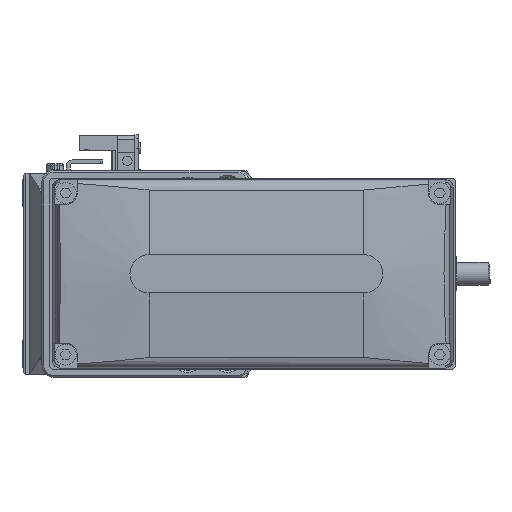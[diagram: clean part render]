
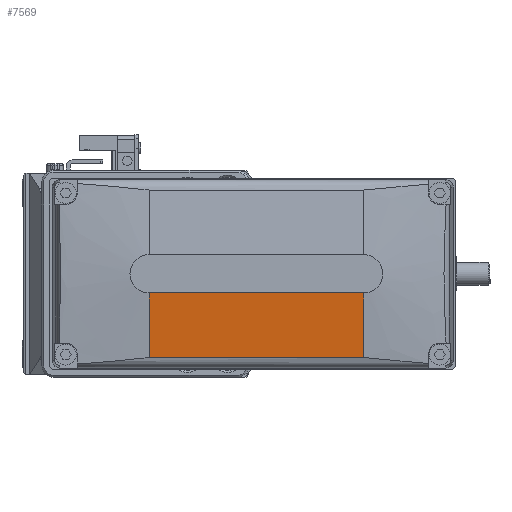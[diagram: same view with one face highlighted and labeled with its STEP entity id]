
A CAD part, left-side view. The second image highlights one B-rep face of the part: STEP entity #7569.
In plain terms, the highlighted planar face has unit normal (-0.996, 0, -0.087).
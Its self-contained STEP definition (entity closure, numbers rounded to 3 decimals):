
#338 = VECTOR ( 'NONE', #29300, 1000. ) ;
#653 = ORIENTED_EDGE ( 'NONE', *, *, #23047, .F. ) ;
#2055 = LINE ( 'NONE', #25812, #32162 ) ;
#3894 = EDGE_CURVE ( 'NONE', #37378, #28473, #23860, .T. ) ;
#5107 = DIRECTION ( 'NONE',  ( 0., 1., 0. ) ) ;
#5335 = VERTEX_POINT ( 'NONE', #30059 ) ;
#5400 = CARTESIAN_POINT ( 'NONE',  ( -48.525, 28., -21.861 ) ) ;
#5723 = DIRECTION ( 'NONE',  ( 0., 1., 0. ) ) ;
#6645 = ORIENTED_EDGE ( 'NONE', *, *, #3894, .T. ) ;
#7569 = ADVANCED_FACE ( 'NONE', ( #11992 ), #8852, .T. ) ;
#8852 = PLANE ( 'NONE',  #9885 ) ;
#9382 = EDGE_CURVE ( 'NONE', #37378, #5335, #29989, .T. ) ;
#9885 = AXIS2_PLACEMENT_3D ( 'NONE', #38114, #23490, #29445 ) ;
#11608 = VECTOR ( 'NONE', #35342, 1000. ) ;
#11992 = FACE_OUTER_BOUND ( 'NONE', #31158, .T. ) ;
#14630 = CARTESIAN_POINT ( 'NONE',  ( 43606.406, 28., -499000. ) ) ;
#16292 = CARTESIAN_POINT ( 'NONE',  ( -50., 28., -5. ) ) ;
#17146 = LINE ( 'NONE', #14630, #11608 ) ;
#17344 = VECTOR ( 'NONE', #5723, 1000. ) ;
#18079 = CARTESIAN_POINT ( 'NONE',  ( -50., -28., -5. ) ) ;
#23047 = EDGE_CURVE ( 'NONE', #5335, #27528, #2055, .T. ) ;
#23490 = DIRECTION ( 'NONE',  ( -0.996, 0., -0.087 ) ) ;
#23576 = CARTESIAN_POINT ( 'NONE',  ( -50., 128., -5. ) ) ;
#23860 = LINE ( 'NONE', #23576, #17344 ) ;
#25812 = CARTESIAN_POINT ( 'NONE',  ( -48.525, 128., -21.861 ) ) ;
#27528 = VERTEX_POINT ( 'NONE', #5400 ) ;
#28473 = VERTEX_POINT ( 'NONE', #16292 ) ;
#28731 = ORIENTED_EDGE ( 'NONE', *, *, #30897, .F. ) ;
#29300 = DIRECTION ( 'NONE',  ( 0.087, 0., -0.996 ) ) ;
#29445 = DIRECTION ( 'NONE',  ( -0.087, 0., 0.996 ) ) ;
#29989 = LINE ( 'NONE', #32432, #338 ) ;
#30059 = CARTESIAN_POINT ( 'NONE',  ( -48.525, -28., -21.861 ) ) ;
#30897 = EDGE_CURVE ( 'NONE', #27528, #28473, #17146, .T. ) ;
#31158 = EDGE_LOOP ( 'NONE', ( #28731, #653, #34692, #6645 ) ) ;
#32162 = VECTOR ( 'NONE', #5107, 1000. ) ;
#32432 = CARTESIAN_POINT ( 'NONE',  ( 43606.406, -28., -499000. ) ) ;
#34692 = ORIENTED_EDGE ( 'NONE', *, *, #9382, .F. ) ;
#35342 = DIRECTION ( 'NONE',  ( -0.087, 0., 0.996 ) ) ;
#37378 = VERTEX_POINT ( 'NONE', #18079 ) ;
#38114 = CARTESIAN_POINT ( 'NONE',  ( -50., 128., -5. ) ) ;
